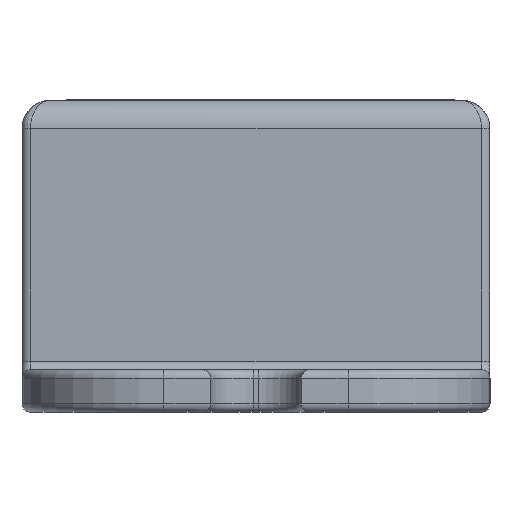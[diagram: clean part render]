
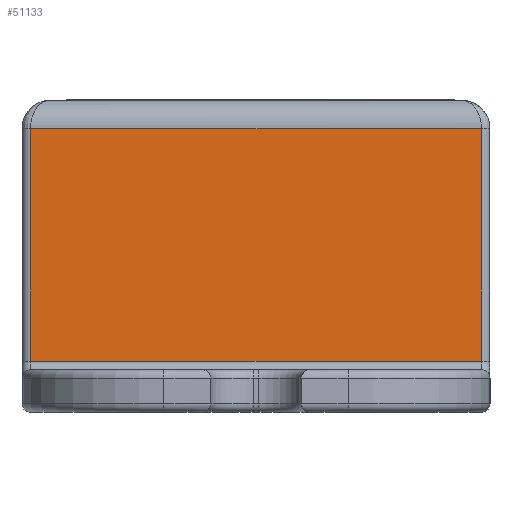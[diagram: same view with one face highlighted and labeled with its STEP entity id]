
A CAD part, left-side view. The second image highlights one B-rep face of the part: STEP entity #51133.
In plain terms, the highlighted planar face has unit normal (-1, 0, 0).
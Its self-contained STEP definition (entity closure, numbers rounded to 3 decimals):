
#1962 = ORIENTED_EDGE ( 'NONE', *, *, #37399, .T. ) ;
#2444 = VECTOR ( 'NONE', #41940, 1000. ) ;
#3596 = VERTEX_POINT ( 'NONE', #18471 ) ;
#5153 = ORIENTED_EDGE ( 'NONE', *, *, #22414, .T. ) ;
#7045 = AXIS2_PLACEMENT_3D ( 'NONE', #33037, #37005, #13392 ) ;
#7320 = VECTOR ( 'NONE', #29282, 1000. ) ;
#7556 = LINE ( 'NONE', #19916, #18002 ) ;
#7926 = DIRECTION ( 'NONE',  ( 0., 0., 1. ) ) ;
#9430 = PLANE ( 'NONE',  #7045 ) ;
#13392 = DIRECTION ( 'NONE',  ( 0., 1., 0. ) ) ;
#13700 = CARTESIAN_POINT ( 'NONE',  ( 10., 0.3, 1.8 ) ) ;
#17778 = LINE ( 'NONE', #29130, #7320 ) ;
#18002 = VECTOR ( 'NONE', #7926, 1000. ) ;
#18471 = CARTESIAN_POINT ( 'NONE',  ( 10., 16.2, 10. ) ) ;
#19916 = CARTESIAN_POINT ( 'NONE',  ( 10., 0.3, 11. ) ) ;
#20713 = FACE_OUTER_BOUND ( 'NONE', #20733, .T. ) ;
#20733 = EDGE_LOOP ( 'NONE', ( #39987, #1962, #5153, #47986 ) ) ;
#22414 = EDGE_CURVE ( 'NONE', #35435, #3596, #17778, .T. ) ;
#26946 = VERTEX_POINT ( 'NONE', #13700 ) ;
#28960 = LINE ( 'NONE', #34389, #30189 ) ;
#29130 = CARTESIAN_POINT ( 'NONE',  ( 10., 16.5, 10. ) ) ;
#29282 = DIRECTION ( 'NONE',  ( 0., 1., 0. ) ) ;
#30061 = CARTESIAN_POINT ( 'NONE',  ( 10., 0., 1.8 ) ) ;
#30189 = VECTOR ( 'NONE', #38343, 1000. ) ;
#33037 = CARTESIAN_POINT ( 'NONE',  ( 10., 16.5, 11. ) ) ;
#34389 = CARTESIAN_POINT ( 'NONE',  ( 10., 16.2, 11. ) ) ;
#35435 = VERTEX_POINT ( 'NONE', #40822 ) ;
#37005 = DIRECTION ( 'NONE',  ( 1., 0., 0. ) ) ;
#37399 = EDGE_CURVE ( 'NONE', #26946, #35435, #7556, .T. ) ;
#38343 = DIRECTION ( 'NONE',  ( 0., 0., -1. ) ) ;
#39987 = ORIENTED_EDGE ( 'NONE', *, *, #49686, .T. ) ;
#40822 = CARTESIAN_POINT ( 'NONE',  ( 10., 0.3, 10. ) ) ;
#41940 = DIRECTION ( 'NONE',  ( 0., -1., 0. ) ) ;
#43146 = LINE ( 'NONE', #30061, #2444 ) ;
#44042 = CARTESIAN_POINT ( 'NONE',  ( 10., 16.2, 1.8 ) ) ;
#47986 = ORIENTED_EDGE ( 'NONE', *, *, #49766, .T. ) ;
#49686 = EDGE_CURVE ( 'NONE', #50973, #26946, #43146, .T. ) ;
#49766 = EDGE_CURVE ( 'NONE', #3596, #50973, #28960, .T. ) ;
#50973 = VERTEX_POINT ( 'NONE', #44042 ) ;
#51133 = ADVANCED_FACE ( 'NONE', ( #20713 ), #9430, .F. ) ;
